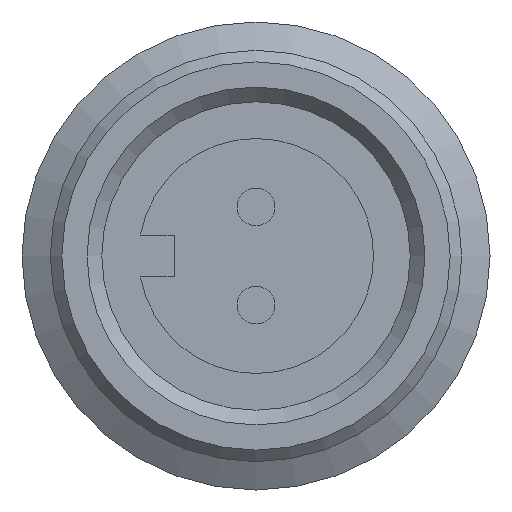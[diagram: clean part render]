
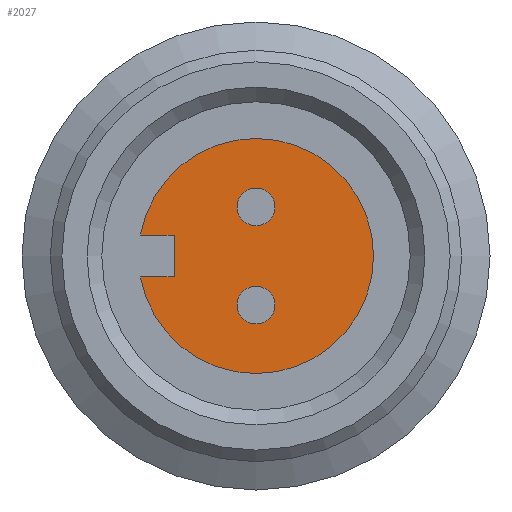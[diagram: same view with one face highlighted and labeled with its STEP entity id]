
A CAD part, left-side view. The second image highlights one B-rep face of the part: STEP entity #2027.
In plain terms, the highlighted planar face has unit normal (-1, 0, 0).
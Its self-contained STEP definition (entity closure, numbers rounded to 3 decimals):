
#27 = DIRECTION ( 'NONE',  ( 0., -1., 0. ) ) ;
#116 = CARTESIAN_POINT ( 'NONE',  ( -65.12, 5.51, -1. ) ) ;
#253 = LINE ( 'NONE', #2202, #1189 ) ;
#254 = ORIENTED_EDGE ( 'NONE', *, *, #793, .T. ) ;
#313 = CARTESIAN_POINT ( 'NONE',  ( -65.12, 0., 0. ) ) ;
#385 = ORIENTED_EDGE ( 'NONE', *, *, #938, .F. ) ;
#452 = EDGE_LOOP ( 'NONE', ( #2427 ) ) ;
#596 = CIRCLE ( 'NONE', #2281, 0.9 ) ;
#699 = VERTEX_POINT ( 'NONE', #2304 ) ;
#780 = DIRECTION ( 'NONE',  ( 0., 1., 0. ) ) ;
#790 = ORIENTED_EDGE ( 'NONE', *, *, #2371, .F. ) ;
#793 = EDGE_CURVE ( 'NONE', #1972, #821, #827, .T. ) ;
#821 = VERTEX_POINT ( 'NONE', #1004 ) ;
#826 = DIRECTION ( 'NONE',  ( -1., 0., 0. ) ) ;
#827 = LINE ( 'NONE', #2135, #2163 ) ;
#938 = EDGE_CURVE ( 'NONE', #1957, #821, #253, .T. ) ;
#942 = EDGE_CURVE ( 'NONE', #1748, #1957, #2093, .T. ) ;
#985 = FACE_BOUND ( 'NONE', #1007, .T. ) ;
#997 = DIRECTION ( 'NONE',  ( 0., 0., -1. ) ) ;
#1004 = CARTESIAN_POINT ( 'NONE',  ( -65.12, 3.9, -1. ) ) ;
#1007 = EDGE_LOOP ( 'NONE', ( #790 ) ) ;
#1067 = CARTESIAN_POINT ( 'NONE',  ( -65.12, 3.9, 1. ) ) ;
#1120 = AXIS2_PLACEMENT_3D ( 'NONE', #313, #2110, #2523 ) ;
#1124 = CARTESIAN_POINT ( 'NONE',  ( -65.12, 0., 1. ) ) ;
#1189 = VECTOR ( 'NONE', #27, 1000. ) ;
#1207 = LINE ( 'NONE', #1124, #2396 ) ;
#1386 = FACE_BOUND ( 'NONE', #452, .T. ) ;
#1401 = DIRECTION ( 'NONE',  ( 0., 0., 1. ) ) ;
#1407 = DIRECTION ( 'NONE',  ( 0., 0., 1. ) ) ;
#1413 = ORIENTED_EDGE ( 'NONE', *, *, #942, .F. ) ;
#1478 = AXIS2_PLACEMENT_3D ( 'NONE', #1795, #2385, #2006 ) ;
#1591 = CARTESIAN_POINT ( 'NONE',  ( -65.12, 0., -2.34 ) ) ;
#1625 = EDGE_CURVE ( 'NONE', #2484, #2484, #596, .T. ) ;
#1655 = PLANE ( 'NONE',  #1120 ) ;
#1748 = VERTEX_POINT ( 'NONE', #2410 ) ;
#1795 = CARTESIAN_POINT ( 'NONE',  ( -65.12, 0., 2.34 ) ) ;
#1855 = FACE_OUTER_BOUND ( 'NONE', #2283, .T. ) ;
#1957 = VERTEX_POINT ( 'NONE', #116 ) ;
#1960 = AXIS2_PLACEMENT_3D ( 'NONE', #2013, #2007, #1407 ) ;
#1972 = VERTEX_POINT ( 'NONE', #1067 ) ;
#2006 = DIRECTION ( 'NONE',  ( 0., 0., 1. ) ) ;
#2007 = DIRECTION ( 'NONE',  ( 1., 0., 0. ) ) ;
#2013 = CARTESIAN_POINT ( 'NONE',  ( -65.12, 0., 0. ) ) ;
#2027 = ADVANCED_FACE ( 'NONE', ( #985, #1386, #1855 ), #1655, .F. ) ;
#2093 = CIRCLE ( 'NONE', #1960, 5.6 ) ;
#2110 = DIRECTION ( 'NONE',  ( 1., 0., 0. ) ) ;
#2135 = CARTESIAN_POINT ( 'NONE',  ( -65.12, 3.9, 1. ) ) ;
#2154 = CIRCLE ( 'NONE', #1478, 0.9 ) ;
#2163 = VECTOR ( 'NONE', #997, 1000. ) ;
#2177 = EDGE_CURVE ( 'NONE', #1972, #1748, #1207, .T. ) ;
#2202 = CARTESIAN_POINT ( 'NONE',  ( -65.12, 0., -1. ) ) ;
#2281 = AXIS2_PLACEMENT_3D ( 'NONE', #1591, #826, #1401 ) ;
#2283 = EDGE_LOOP ( 'NONE', ( #1413, #2318, #254, #385 ) ) ;
#2304 = CARTESIAN_POINT ( 'NONE',  ( -65.12, 0., 3.24 ) ) ;
#2318 = ORIENTED_EDGE ( 'NONE', *, *, #2177, .F. ) ;
#2371 = EDGE_CURVE ( 'NONE', #699, #699, #2154, .T. ) ;
#2385 = DIRECTION ( 'NONE',  ( -1., 0., 0. ) ) ;
#2396 = VECTOR ( 'NONE', #780, 1000. ) ;
#2410 = CARTESIAN_POINT ( 'NONE',  ( -65.12, 5.51, 1. ) ) ;
#2427 = ORIENTED_EDGE ( 'NONE', *, *, #1625, .F. ) ;
#2484 = VERTEX_POINT ( 'NONE', #2509 ) ;
#2509 = CARTESIAN_POINT ( 'NONE',  ( -65.12, 0., -1.44 ) ) ;
#2523 = DIRECTION ( 'NONE',  ( 0., 0., -1. ) ) ;
